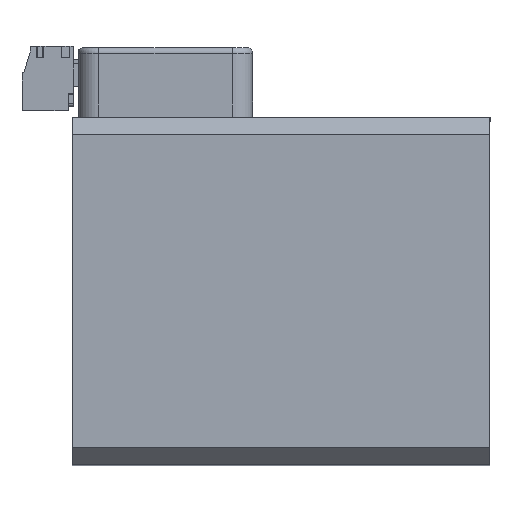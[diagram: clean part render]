
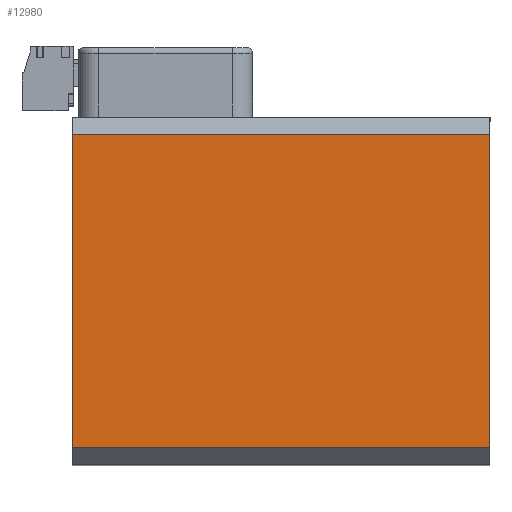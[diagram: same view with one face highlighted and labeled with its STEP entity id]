
A CAD part, top view. The second image highlights one B-rep face of the part: STEP entity #12980.
In plain terms, the highlighted planar face has unit normal (0, 0, 1).
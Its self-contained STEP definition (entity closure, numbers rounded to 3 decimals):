
#608 = AXIS2_PLACEMENT_3D ( 'NONE', #13253, #1866, #15137 ) ;
#805 = EDGE_LOOP ( 'NONE', ( #7977, #12007, #18093, #4764 ) ) ;
#981 = EDGE_CURVE ( 'NONE', #12390, #1552, #6617, .T. ) ;
#1176 = CARTESIAN_POINT ( 'NONE',  ( 36., 30., 30. ) ) ;
#1552 = VERTEX_POINT ( 'NONE', #13498 ) ;
#1649 = CARTESIAN_POINT ( 'NONE',  ( -36., 27., 30. ) ) ;
#1866 = DIRECTION ( 'NONE',  ( 0., 0., -1. ) ) ;
#2539 = CARTESIAN_POINT ( 'NONE',  ( 36., -27., 30. ) ) ;
#2852 = VECTOR ( 'NONE', #24013, 1000. ) ;
#4764 = ORIENTED_EDGE ( 'NONE', *, *, #981, .F. ) ;
#5443 = EDGE_CURVE ( 'NONE', #1552, #16020, #7945, .T. ) ;
#6617 = LINE ( 'NONE', #22945, #21179 ) ;
#7945 = LINE ( 'NONE', #1176, #2852 ) ;
#7977 = ORIENTED_EDGE ( 'NONE', *, *, #21967, .T. ) ;
#8964 = CARTESIAN_POINT ( 'NONE',  ( -36., -27., 30. ) ) ;
#11318 = CARTESIAN_POINT ( 'NONE',  ( -36., 30., 30. ) ) ;
#11523 = DIRECTION ( 'NONE',  ( 1., 0., 0. ) ) ;
#12007 = ORIENTED_EDGE ( 'NONE', *, *, #21335, .T. ) ;
#12390 = VERTEX_POINT ( 'NONE', #1649 ) ;
#12586 = DIRECTION ( 'NONE',  ( 1., 0., 0. ) ) ;
#12980 = ADVANCED_FACE ( 'NONE', ( #17428 ), #16970, .F. ) ;
#13253 = CARTESIAN_POINT ( 'NONE',  ( 36., 30., 30. ) ) ;
#13498 = CARTESIAN_POINT ( 'NONE',  ( 36., 27., 30. ) ) ;
#15137 = DIRECTION ( 'NONE',  ( 0., 1., 0. ) ) ;
#15260 = LINE ( 'NONE', #18258, #19765 ) ;
#16020 = VERTEX_POINT ( 'NONE', #2539 ) ;
#16970 = PLANE ( 'NONE',  #608 ) ;
#17428 = FACE_OUTER_BOUND ( 'NONE', #805, .T. ) ;
#17917 = VECTOR ( 'NONE', #18964, 1000. ) ;
#18093 = ORIENTED_EDGE ( 'NONE', *, *, #5443, .F. ) ;
#18258 = CARTESIAN_POINT ( 'NONE',  ( -36., -27., 30. ) ) ;
#18964 = DIRECTION ( 'NONE',  ( 0., -1., 0. ) ) ;
#19765 = VECTOR ( 'NONE', #12586, 1000. ) ;
#21179 = VECTOR ( 'NONE', #11523, 1000. ) ;
#21335 = EDGE_CURVE ( 'NONE', #22946, #16020, #15260, .T. ) ;
#21967 = EDGE_CURVE ( 'NONE', #12390, #22946, #23629, .T. ) ;
#22945 = CARTESIAN_POINT ( 'NONE',  ( -36., 27., 30. ) ) ;
#22946 = VERTEX_POINT ( 'NONE', #8964 ) ;
#23629 = LINE ( 'NONE', #11318, #17917 ) ;
#24013 = DIRECTION ( 'NONE',  ( 0., -1., 0. ) ) ;
